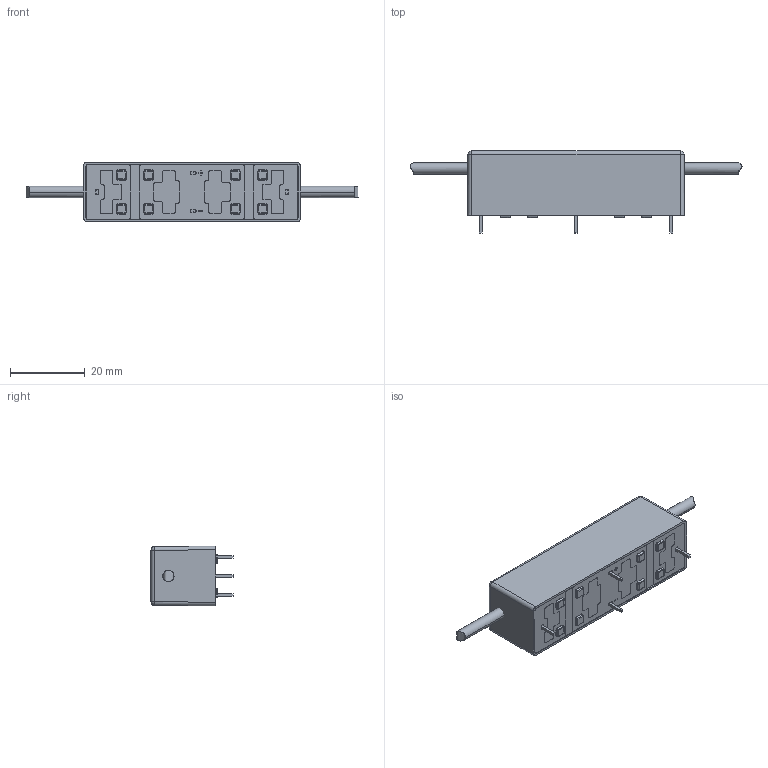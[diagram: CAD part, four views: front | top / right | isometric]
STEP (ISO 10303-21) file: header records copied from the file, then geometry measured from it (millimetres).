
FILE_DESCRIPTION (( 'STEP AP203' ), '1' );
FILE_NAME ('600 SERIES - 600 1A or B FE-1.STEP', '2025-06-30T14:50:10', ( '' ), ( '' ), 'SwSTEP 2.0', 'SolidWorks 2023', '' );
FILE_SCHEMA (( 'CONFIG_CONTROL_DESIGN' ));
Length unit declared in the file: millimetre
Products named in the file (1): 600 SERIES - 600 1A or B FE-1
Bounding box: 88.54 x 21.87 x 15.95 mm (x, y, z)
Volume: 2423.4 mm3; surface area: 8709.3 mm2
Topology: 40 solids, 40 shells, 897 faces, 2270 edges, 1456 vertices
Faces by surface type: plane 415, cylinder 348, bspline 98, sphere 36
Entity records: 27725 total; most frequent: CARTESIAN_POINT 7044, ORIENTED_EDGE 4540, DIRECTION 4070, EDGE_CURVE 2270, VERTEX_POINT 1456, AXIS2_PLACEMENT_3D 1392, VECTOR 1286, LINE 1286
